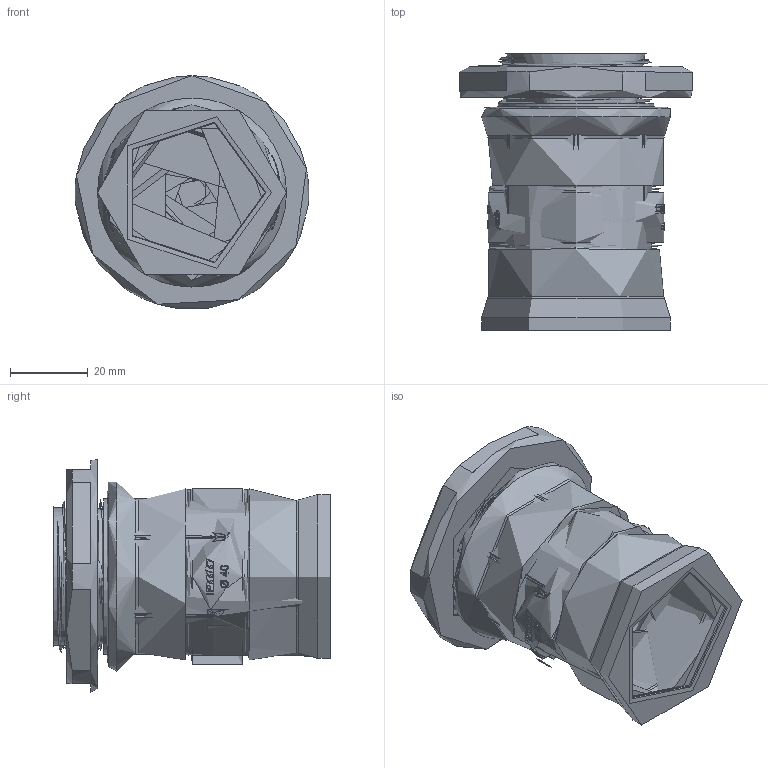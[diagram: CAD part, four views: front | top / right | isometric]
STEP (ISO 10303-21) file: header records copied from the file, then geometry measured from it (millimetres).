
FILE_DESCRIPTION(/* description */ (''),/* implementation_level */ '2;1');
FILE_NAME(/* name */ '4007054.stp',/* time_stamp */ '2026-01-11T18:45:57+01:00',/* author */ (''),/* organization */ (''),/* preprocessor_version */ 'ST-DEVELOPER v20',/* originating_system */ 'SIEMENS PLM Software NX2406.3002',/* authorisation */ '');
FILE_SCHEMA (('AUTOMOTIVE_DESIGN { 1 0 10303 214 3 1 1 1 }'));
Length unit declared in the file: millimetre
Products named in the file (1): SVCPcf8my50vs6gip
Bounding box: 59.96 x 71 x 59.72 mm (x, y, z)
Volume: 31701.7 mm3; surface area: 30265.5 mm2
Topology: 4 solids, 4 shells, 529 faces, 1356 edges, 885 vertices
Faces by surface type: plane 233, cylinder 131, extrusion 112, cone 20, bspline 13, sphere 12, torus 8
Full cylindrical faces by diameter (mm): 37.5 x1, 38.37 x1, 40 x1, 40.84 x1, 45 x3, 48 x1, 48.5 x2, 60 x1
Entity records: 24242 total; most frequent: CARTESIAN_POINT 11840, ORIENTED_EDGE 2576, DIRECTION 1912, EDGE_CURVE 1288, VERTEX_POINT 867, B_SPLINE_CURVE_WITH_KNOTS 659, AXIS2_PLACEMENT_3D 655, EDGE_LOOP 635
